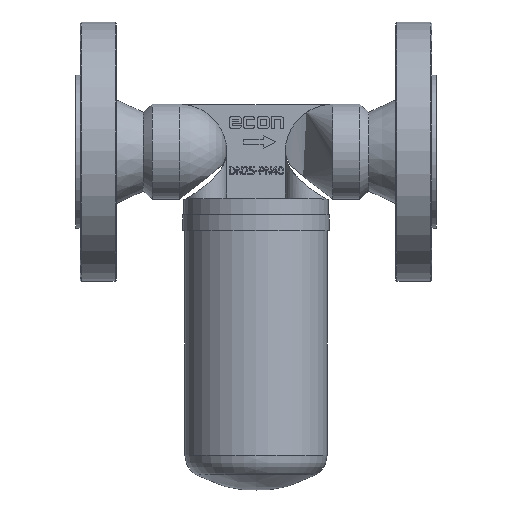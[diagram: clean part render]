
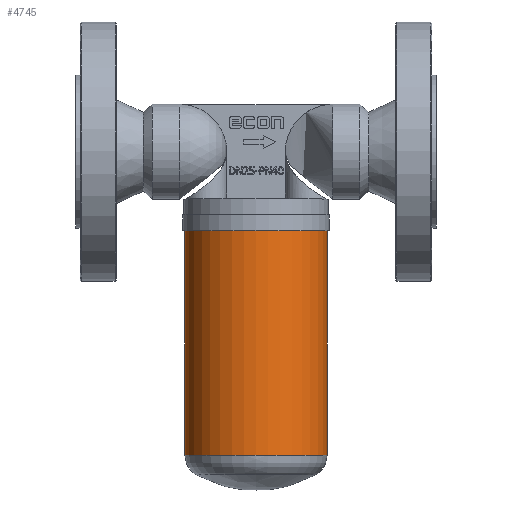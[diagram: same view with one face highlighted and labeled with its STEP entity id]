
A CAD part, top view. The second image highlights one B-rep face of the part: STEP entity #4745.
In plain terms, the highlighted cylindrical face has radius 31.5 mm (diameter 63 mm), a full revolution.
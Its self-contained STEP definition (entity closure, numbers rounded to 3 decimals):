
#479=FACE_OUTER_BOUND('',#749,.T.);
#749=EDGE_LOOP('',(#4078,#4079,#4080,#4081,#4082));
#957=CIRCLE('',#5002,31.5);
#959=CIRCLE('',#5004,31.5);
#960=CIRCLE('',#5006,31.5);
#1428=LINE('',#8200,#1869);
#1869=VECTOR('',#5914,31.5);
#2265=VERTEX_POINT('',#8192);
#2266=VERTEX_POINT('',#8193);
#2267=VERTEX_POINT('',#8198);
#2876=EDGE_CURVE('',#2265,#2266,#957,.T.);
#2878=EDGE_CURVE('',#2266,#2265,#959,.T.);
#2879=EDGE_CURVE('',#2267,#2267,#960,.T.);
#2880=EDGE_CURVE('',#2267,#2266,#1428,.T.);
#4078=ORIENTED_EDGE('',*,*,#2879,.F.);
#4079=ORIENTED_EDGE('',*,*,#2880,.T.);
#4080=ORIENTED_EDGE('',*,*,#2878,.T.);
#4081=ORIENTED_EDGE('',*,*,#2876,.T.);
#4082=ORIENTED_EDGE('',*,*,#2880,.F.);
#4266=CYLINDRICAL_SURFACE('',#5005,31.5);
#4745=ADVANCED_FACE('',(#479),#4266,.T.);
#5002=AXIS2_PLACEMENT_3D('',#8194,#5904,#5905);
#5004=AXIS2_PLACEMENT_3D('',#8196,#5908,#5909);
#5005=AXIS2_PLACEMENT_3D('',#8197,#5910,#5911);
#5006=AXIS2_PLACEMENT_3D('',#8199,#5912,#5913);
#5904=DIRECTION('center_axis',(0.,1.,0.));
#5905=DIRECTION('ref_axis',(-1.,0.,0.));
#5908=DIRECTION('center_axis',(0.,1.,0.));
#5909=DIRECTION('ref_axis',(-1.,0.,0.));
#5910=DIRECTION('center_axis',(0.,1.,0.));
#5911=DIRECTION('ref_axis',(1.,0.,0.));
#5912=DIRECTION('center_axis',(0.,1.,0.));
#5913=DIRECTION('ref_axis',(1.,0.,0.));
#5914=DIRECTION('',(0.,-1.,0.));
#8192=CARTESIAN_POINT('',(-13.959,-74.859,31.5));
#8193=CARTESIAN_POINT('',(-45.459,-74.859,0.));
#8194=CARTESIAN_POINT('Origin',(-13.959,-74.859,0.));
#8196=CARTESIAN_POINT('Origin',(-13.959,-74.859,0.));
#8197=CARTESIAN_POINT('Origin',(-13.959,-25.036,0.));
#8198=CARTESIAN_POINT('',(-45.459,24.787,0.));
#8199=CARTESIAN_POINT('Origin',(-13.959,24.787,0.));
#8200=CARTESIAN_POINT('',(-45.459,-25.036,0.));
